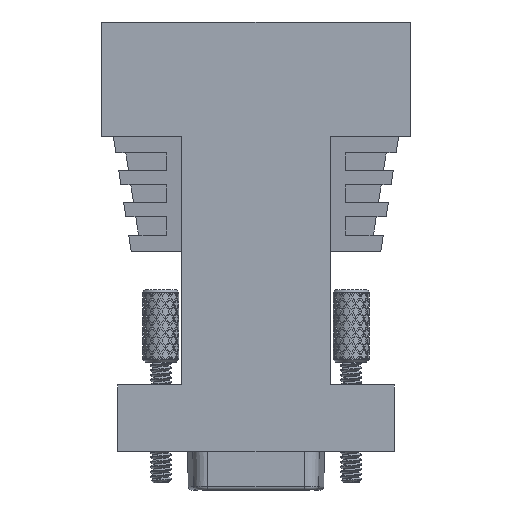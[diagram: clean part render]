
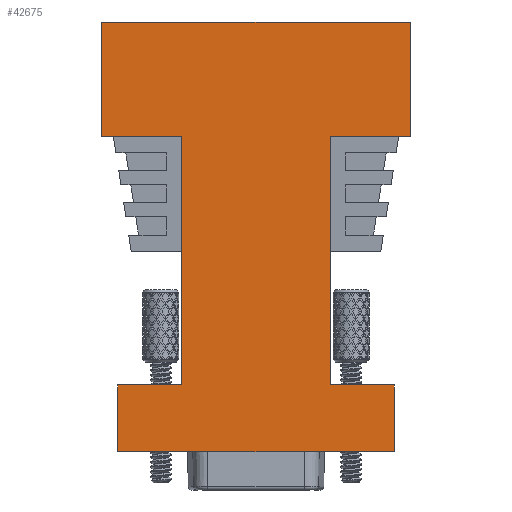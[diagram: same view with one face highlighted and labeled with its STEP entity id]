
A CAD part, front view. The second image highlights one B-rep face of the part: STEP entity #42675.
In plain terms, the highlighted planar face has unit normal (0, -1, 0).
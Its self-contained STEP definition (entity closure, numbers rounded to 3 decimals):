
#1405=PLANE('',#46452);
#5972=FACE_OUTER_BOUND('',#8526,.T.);
#8526=EDGE_LOOP('',(#35924,#35925,#35926,#35927,#35928,#35929,#35930,#35931,
#35932,#35933,#35934,#35935));
#12456=LINE('',#78124,#15855);
#12461=LINE('',#78134,#15860);
#12537=LINE('',#78281,#15936);
#12600=LINE('',#78407,#15999);
#12601=LINE('',#78410,#16000);
#12606=LINE('',#78420,#16005);
#12608=LINE('',#78424,#16007);
#12609=LINE('',#78425,#16008);
#12610=LINE('',#78426,#16009);
#12611=LINE('',#78428,#16010);
#12612=LINE('',#78430,#16011);
#12613=LINE('',#78431,#16012);
#15855=VECTOR('',#56429,10.);
#15860=VECTOR('',#56436,10.);
#15936=VECTOR('',#56526,10.);
#15999=VECTOR('',#56651,10.);
#16000=VECTOR('',#56654,10.);
#16005=VECTOR('',#56661,10.);
#16007=VECTOR('',#56665,10.);
#16008=VECTOR('',#56666,10.);
#16009=VECTOR('',#56667,10.);
#16010=VECTOR('',#56668,10.);
#16011=VECTOR('',#56669,10.);
#16012=VECTOR('',#56670,10.);
#19704=VERTEX_POINT('',#78121);
#19705=VERTEX_POINT('',#78123);
#19708=VERTEX_POINT('',#78131);
#19709=VERTEX_POINT('',#78133);
#19772=VERTEX_POINT('',#78278);
#19773=VERTEX_POINT('',#78280);
#19806=VERTEX_POINT('',#78409);
#19809=VERTEX_POINT('',#78417);
#19810=VERTEX_POINT('',#78419);
#19811=VERTEX_POINT('',#78423);
#19812=VERTEX_POINT('',#78427);
#19813=VERTEX_POINT('',#78429);
#25290=EDGE_CURVE('',#19704,#19705,#12456,.T.);
#25295=EDGE_CURVE('',#19709,#19708,#12461,.T.);
#25371=EDGE_CURVE('',#19773,#19772,#12537,.T.);
#25434=EDGE_CURVE('',#19708,#19773,#12600,.T.);
#25435=EDGE_CURVE('',#19806,#19709,#12601,.T.);
#25440=EDGE_CURVE('',#19810,#19809,#12606,.T.);
#25442=EDGE_CURVE('',#19810,#19811,#12608,.T.);
#25443=EDGE_CURVE('',#19809,#19806,#12609,.T.);
#25444=EDGE_CURVE('',#19705,#19772,#12610,.T.);
#25445=EDGE_CURVE('',#19812,#19704,#12611,.T.);
#25446=EDGE_CURVE('',#19813,#19812,#12612,.T.);
#25447=EDGE_CURVE('',#19811,#19813,#12613,.T.);
#35924=ORIENTED_EDGE('',*,*,#25442,.F.);
#35925=ORIENTED_EDGE('',*,*,#25440,.T.);
#35926=ORIENTED_EDGE('',*,*,#25443,.T.);
#35927=ORIENTED_EDGE('',*,*,#25435,.T.);
#35928=ORIENTED_EDGE('',*,*,#25295,.T.);
#35929=ORIENTED_EDGE('',*,*,#25434,.T.);
#35930=ORIENTED_EDGE('',*,*,#25371,.T.);
#35931=ORIENTED_EDGE('',*,*,#25444,.F.);
#35932=ORIENTED_EDGE('',*,*,#25290,.F.);
#35933=ORIENTED_EDGE('',*,*,#25445,.F.);
#35934=ORIENTED_EDGE('',*,*,#25446,.F.);
#35935=ORIENTED_EDGE('',*,*,#25447,.F.);
#42675=ADVANCED_FACE('',(#5972),#1405,.T.);
#46452=AXIS2_PLACEMENT_3D('',#78422,#56663,#56664);
#56429=DIRECTION('',(1.,0.,0.));
#56436=DIRECTION('',(-1.,0.,0.));
#56526=DIRECTION('',(1.,0.,0.));
#56651=DIRECTION('',(0.,0.,-1.));
#56654=DIRECTION('',(0.,0.,-1.));
#56661=DIRECTION('',(0.,0.,-1.));
#56663=DIRECTION('center_axis',(0.,-1.,0.));
#56664=DIRECTION('ref_axis',(0.,0.,-1.));
#56665=DIRECTION('',(1.,0.,0.));
#56666=DIRECTION('',(1.,0.,0.));
#56667=DIRECTION('',(0.,0.,-1.));
#56668=DIRECTION('',(0.,0.,-1.));
#56669=DIRECTION('',(-1.,0.,0.));
#56670=DIRECTION('',(0.,0.,-1.));
#78121=CARTESIAN_POINT('',(9.75,-9.56,-47.7));
#78123=CARTESIAN_POINT('',(18.15,-9.56,-47.7));
#78124=CARTESIAN_POINT('',(9.75,-9.56,-47.7));
#78131=CARTESIAN_POINT('',(-18.15,-9.56,-47.7));
#78133=CARTESIAN_POINT('',(-9.75,-9.56,-47.7));
#78134=CARTESIAN_POINT('',(-9.75,-9.56,-47.7));
#78278=CARTESIAN_POINT('',(18.15,-9.56,-56.5));
#78280=CARTESIAN_POINT('',(-18.15,-9.56,-56.5));
#78281=CARTESIAN_POINT('',(-18.15,-9.56,-56.5));
#78407=CARTESIAN_POINT('',(-18.15,-9.56,-47.7));
#78409=CARTESIAN_POINT('',(-9.75,-9.56,-15.));
#78410=CARTESIAN_POINT('',(-9.75,-9.56,-15.));
#78417=CARTESIAN_POINT('',(-20.25,-9.56,-15.));
#78419=CARTESIAN_POINT('',(-20.25,-9.56,0.));
#78420=CARTESIAN_POINT('',(-20.25,-9.56,0.));
#78422=CARTESIAN_POINT('Origin',(-10.125,-9.56,-28.25));
#78423=CARTESIAN_POINT('',(20.25,-9.56,0.));
#78424=CARTESIAN_POINT('',(20.25,-9.56,0.));
#78425=CARTESIAN_POINT('',(-20.25,-9.56,-15.));
#78426=CARTESIAN_POINT('',(18.15,-9.56,-47.7));
#78427=CARTESIAN_POINT('',(9.75,-9.56,-15.));
#78428=CARTESIAN_POINT('',(9.75,-9.56,-15.));
#78429=CARTESIAN_POINT('',(20.25,-9.56,-15.));
#78430=CARTESIAN_POINT('',(20.25,-9.56,-15.));
#78431=CARTESIAN_POINT('',(20.25,-9.56,0.));
